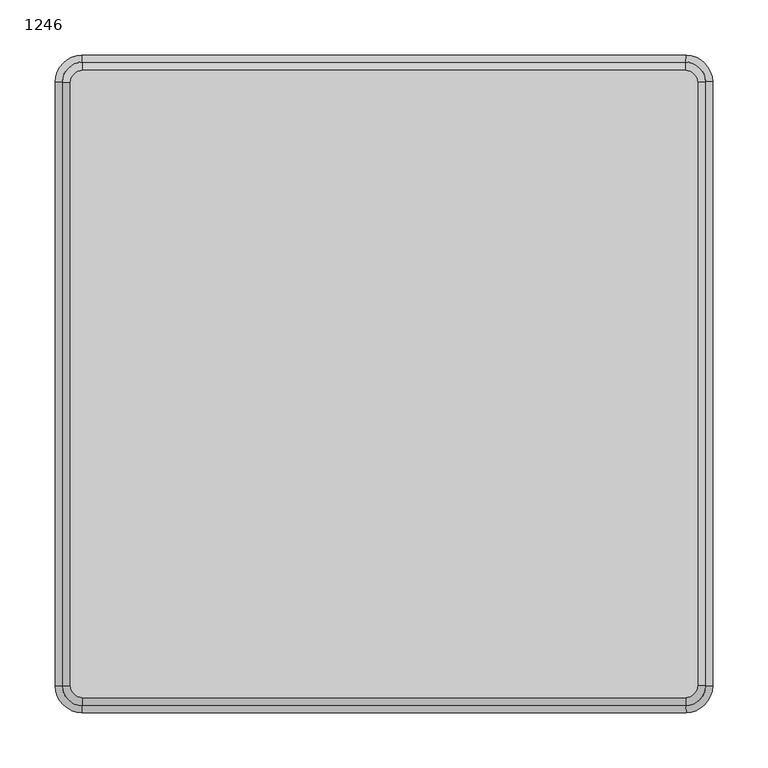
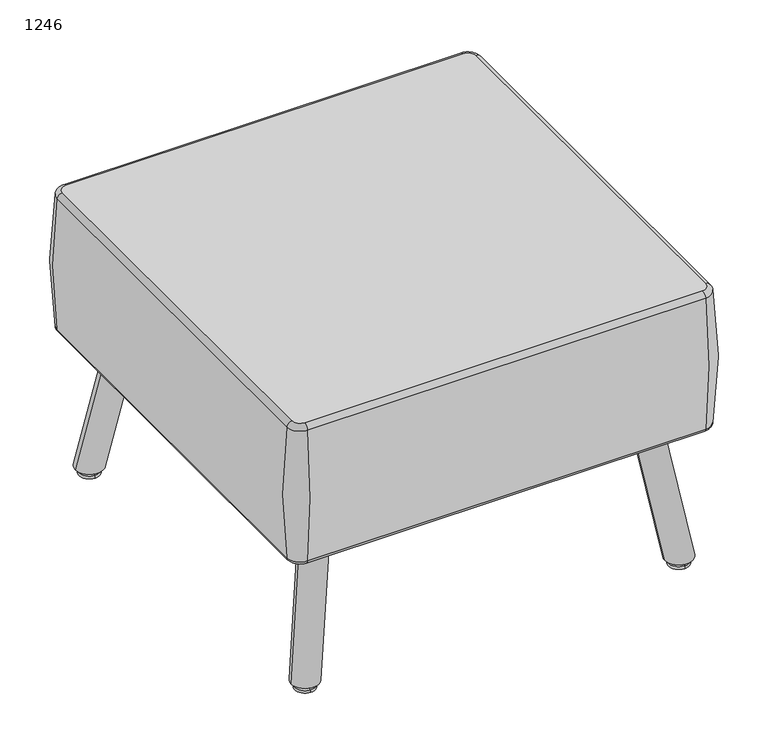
"""IFC4 building model written with IfcOpenShell, lengths in millimetres: furniture geometry, Laguna-Square_Ottomans-With_Legs-ERG : 1246."""

from ifc_helpers import new_model, si_unit, point, frame, frame_2d, origin, place, context, project, spatial, polyline, circle_curve, ellipse_curve, trimmed, segment, composite_curve, outline, extrude, source, transform, mapped, element, save
from ifc_brep_helpers import plane_surface, cylinder_surface, revolved_surface, spline_surface, advanced_brep


def furniture_1246_e8551991(model_context):
    return source(origin(), model_context, "Body", "SolidModel", [
        advanced_brep(
        [(-4631.6596005, 1213.9607848, 406.4), (-4642.547111, 1203.0732744, 406.4), (-4642.547111, 655.638426, 406.4), (-4631.6596005, 644.7509155, 406.4), (-4084.2247521, 644.7509155, 406.4), (-4073.3372416, 655.638426, 406.4), (-4073.3372416, 1203.0732744, 406.4), (-4084.2247521, 1213.9607848, 406.4), (-4642.547111, 1203.0732744, 203.2), (-4631.6596005, 1213.9607848, 203.2), (-4084.2247521, 1213.9607848, 203.2), (-4073.3372416, 1203.0732744, 203.2), (-4073.3372416, 655.638426, 203.2), (-4084.2247521, 644.7509155, 203.2), (-4631.6596005, 644.7509155, 203.2), (-4642.547111, 655.638426, 203.2), (-4650.0919814, 1203.4222653, 399.7887299), (-4632.0085914, 1221.5056552, 399.7887299), (-4632.0085914, 1221.5056552, 209.8112701), (-4650.0919814, 1203.4222653, 209.8112701), (-4650.0919814, 655.2894351, 209.8112701), (-4650.0919814, 655.2894351, 399.7887299), (-4632.0085914, 637.2060451, 209.8112701), (-4632.0085914, 637.2060451, 399.7887299), (-4083.8757612, 637.2060451, 209.8112701), (-4083.8757612, 637.2060451, 399.7887299), (-4065.7923712, 655.2894351, 209.8112701), (-4065.7923712, 655.2894351, 399.7887299), (-4065.7923712, 1203.4222653, 209.8112701), (-4065.7923712, 1203.4222653, 399.7887299), (-4083.8757612, 1221.5056552, 209.8112701), (-4083.8757612, 1221.5056552, 399.7887299)],
        [
            (0, 1, circle_curve(frame((-4631.1315702, 1202.5452441, 406.4), z_axis=(0.0, 0.0, 1.0), x_axis=(-0.04620598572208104, 0.9989319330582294, 0.0)), 11.4277464)),
            (1, 2, circle_curve(frame((1274.977889, 929.3558502, 406.4), z_axis=(0.0, 0.0, 1.0), x_axis=(-0.9989319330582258, 0.04620598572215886, 0.0)), 5923.8520706)),
            (2, 3, circle_curve(frame((-4631.1315702, 656.1664563, 406.4), z_axis=(0.0, 0.0, 1.0), x_axis=(-0.9989319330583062, -0.04620598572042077, 0.0)), 11.4277464)),
            (3, 4, circle_curve(frame((-4357.9421763, 6562.2759155, 406.4), z_axis=(0.0, 0.0, 1.0), x_axis=(-0.0462059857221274, -0.9989319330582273, 0.0)), 5923.8520706)),
            (4, 5, circle_curve(frame((-4084.7527824, 656.1664563, 406.4), z_axis=(0.0, 0.0, 1.0), x_axis=(0.04620598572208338, -0.9989319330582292, 0.0)), 11.4277464)),
            (5, 6, circle_curve(frame((-9990.8622416, 929.3558502, 406.4), z_axis=(0.0, 0.0, 1.0), x_axis=(0.9989319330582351, -0.04620598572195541, 0.0)), 5923.8520706)),
            (6, 7, circle_curve(frame((-4084.7527824, 1202.5452441, 406.4), z_axis=(0.0, 0.0, 1.0), x_axis=(0.9989319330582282, 0.046205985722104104, 0.0)), 11.4277464)),
            (7, 0, circle_curve(frame((-4357.9421763, -4703.5642152, 406.4), z_axis=(0.0, 0.0, 1.0), x_axis=(0.046205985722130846, 0.998931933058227, 0.0)), 5923.8520706)),
            (8, 9, circle_curve(frame((-4631.1315702, 1202.5452441, 203.2), z_axis=(0.0, 0.0, -1.0), x_axis=(-0.04620598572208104, 0.9989319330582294, 0.0)), 11.4277464)),
            (9, 10, circle_curve(frame((-4357.9421763, -4703.5642152, 203.2), z_axis=(0.0, 0.0, -1.0), x_axis=(0.046205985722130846, 0.998931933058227, 0.0)), 5923.8520706)),
            (10, 11, circle_curve(frame((-4084.7527824, 1202.5452441, 203.2), z_axis=(0.0, 0.0, -1.0), x_axis=(0.9989319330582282, 0.046205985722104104, 0.0)), 11.4277464)),
            (11, 12, circle_curve(frame((-9990.8622416, 929.3558502, 203.2), z_axis=(0.0, 0.0, -1.0), x_axis=(0.9989319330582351, -0.04620598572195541, 0.0)), 5923.8520706)),
            (12, 13, circle_curve(frame((-4084.7527824, 656.1664563, 203.2), z_axis=(0.0, 0.0, -1.0), x_axis=(0.04620598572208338, -0.9989319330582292, 0.0)), 11.4277464)),
            (13, 14, circle_curve(frame((-4357.9421763, 6562.2759155, 203.2), z_axis=(0.0, 0.0, -1.0), x_axis=(-0.0462059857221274, -0.9989319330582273, 0.0)), 5923.8520706)),
            (14, 15, circle_curve(frame((-4631.1315702, 656.1664563, 203.2), z_axis=(0.0, 0.0, -1.0), x_axis=(-0.9989319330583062, -0.04620598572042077, 0.0)), 11.4277464)),
            (15, 8, circle_curve(frame((1274.977889, 929.3558502, 203.2), z_axis=(0.0, 0.0, -1.0), x_axis=(-0.9989319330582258, 0.04620598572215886, 0.0)), 5923.8520706)),
            (16, 17, circle_curve(frame((-4631.1315702, 1202.5452441, 399.7887299), z_axis=(0.0, 0.0, -1.0), x_axis=(-0.04620598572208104, 0.9989319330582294, 0.0)), 18.9806838)),
            (17, 18, circle_curve(frame((-4599.1452798, 511.0303591, 304.8), z_axis=(-0.9989319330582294, -0.04620598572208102, 0.0), x_axis=(0.04620598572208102, -0.9989319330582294, 0.0)), 717.55)),
            (18, 19, circle_curve(frame((-4631.1315702, 1202.5452441, 209.8112701), z_axis=(0.0, 0.0, 1.0), x_axis=(-0.04620598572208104, 0.9989319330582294, 0.0)), 18.9806838)),
            (19, 16, circle_curve(frame((-3939.6166852, 1170.5589537, 304.8), z_axis=(0.04620598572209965, 0.9989319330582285, 0.0), x_axis=(0.9989319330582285, -0.04620598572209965, 0.0)), 717.55)),
            (16, 1, circle_curve(frame((-4642.547111, 1203.0732744, 398.78), z_axis=(0.04620598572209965, 0.9989319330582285, 0.0), x_axis=(0.9989319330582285, -0.04620598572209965, 0.0)), 7.62)),
            (0, 17, circle_curve(frame((-4631.6596005, 1213.9607848, 398.78), z_axis=(-0.9989319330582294, -0.04620598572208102, 0.0), x_axis=(0.04620598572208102, -0.9989319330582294, 0.0)), 7.62)),
            (18, 9, circle_curve(frame((-4631.6596005, 1213.9607848, 210.82), z_axis=(-0.9989319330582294, -0.04620598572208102, 0.0), x_axis=(0.04620598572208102, -0.9989319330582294, 0.0)), 7.62)),
            (8, 19, circle_curve(frame((-4642.547111, 1203.0732744, 210.82), z_axis=(0.046205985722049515, 0.9989319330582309, 0.0), x_axis=(0.9989319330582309, -0.046205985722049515, 0.0)), 7.62)),
            (19, 20, circle_curve(frame((1274.977889, 929.3558502, 209.8112701), z_axis=(0.0, 0.0, 1.0), x_axis=(-0.9989319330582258, 0.04620598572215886, 0.0)), 5931.405008)),
            (20, 21, circle_curve(frame((-3939.6166852, 688.1527467, 304.8), z_axis=(-0.04620598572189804, 0.9989319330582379, 0.0), x_axis=(0.9989319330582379, 0.04620598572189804, 0.0)), 717.55)),
            (21, 16, circle_curve(frame((1274.977889, 929.3558502, 399.7887299), z_axis=(0.0, 0.0, -1.0), x_axis=(-0.9989319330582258, 0.04620598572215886, 0.0)), 5931.405008)),
            (21, 2, circle_curve(frame((-4642.547111, 655.638426, 398.78), z_axis=(-0.04620598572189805, 0.9989319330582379, 0.0), x_axis=(0.9989319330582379, 0.04620598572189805, 0.0)), 7.62)),
            (15, 20, circle_curve(frame((-4642.547111, 655.638426, 210.82), z_axis=(-0.046205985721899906, 0.9989319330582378, 0.0), x_axis=(0.9989319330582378, 0.046205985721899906, 0.0)), 7.62)),
            (20, 22, circle_curve(frame((-4631.1315702, 656.1664563, 209.8112701), z_axis=(0.0, 0.0, 1.0), x_axis=(-0.9989319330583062, -0.04620598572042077, 0.0)), 18.9806838)),
            (22, 23, circle_curve(frame((-4599.1452798, 1347.6813412, 304.8), z_axis=(-0.9989319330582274, 0.0462059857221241, 0.0), x_axis=(0.0462059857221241, 0.9989319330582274, 0.0)), 717.55)),
            (23, 21, circle_curve(frame((-4631.1315702, 656.1664563, 399.7887299), z_axis=(0.0, 0.0, -1.0), x_axis=(-0.9989319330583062, -0.04620598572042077, 0.0)), 18.9806838)),
            (23, 3, circle_curve(frame((-4631.6596005, 644.7509155, 398.78), z_axis=(-0.9989319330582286, 0.04620598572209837, 0.0), x_axis=(0.04620598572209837, 0.9989319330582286, 0.0)), 7.62)),
            (14, 22, circle_curve(frame((-4631.6596005, 644.7509155, 210.82), z_axis=(-0.998931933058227, 0.04620598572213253, 0.0), x_axis=(0.04620598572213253, 0.998931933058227, 0.0)), 7.62)),
            (22, 24, circle_curve(frame((-4357.9421763, 6562.2759155, 209.8112701), z_axis=(0.0, 0.0, 1.0), x_axis=(-0.0462059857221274, -0.9989319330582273, 0.0)), 5931.405008)),
            (24, 25, circle_curve(frame((-4116.7390728, 1347.6813412, 304.8), z_axis=(-0.998931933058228, -0.04620598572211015, 0.0), x_axis=(-0.04620598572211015, 0.998931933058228, 0.0)), 717.55)),
            (25, 23, circle_curve(frame((-4357.9421763, 6562.2759155, 399.7887299), z_axis=(0.0, 0.0, -1.0), x_axis=(-0.0462059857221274, -0.9989319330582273, 0.0)), 5931.405008)),
            (25, 4, circle_curve(frame((-4084.2247521, 644.7509155, 398.78), z_axis=(-0.998931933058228, -0.04620598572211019, 0.0), x_axis=(-0.04620598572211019, 0.998931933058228, 0.0)), 7.62)),
            (13, 24, circle_curve(frame((-4084.2247521, 644.7509155, 210.82), z_axis=(-0.998931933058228, -0.046205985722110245, 0.0), x_axis=(-0.046205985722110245, 0.998931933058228, 0.0)), 7.62)),
            (24, 26, circle_curve(frame((-4084.7527824, 656.1664563, 209.8112701), z_axis=(0.0, 0.0, 1.0), x_axis=(0.04620598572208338, -0.9989319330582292, 0.0)), 18.9806838)),
            (26, 27, circle_curve(frame((-4776.2676674, 688.1527467, 304.8), z_axis=(-0.046205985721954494, -0.9989319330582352, 0.0), x_axis=(-0.9989319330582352, 0.046205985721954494, 0.0)), 717.55)),
            (27, 25, circle_curve(frame((-4084.7527824, 656.1664563, 399.7887299), z_axis=(0.0, 0.0, -1.0), x_axis=(0.04620598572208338, -0.9989319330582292, 0.0)), 18.9806838)),
            (27, 5, circle_curve(frame((-4073.3372416, 655.638426, 398.78), z_axis=(-0.046205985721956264, -0.9989319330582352, 0.0), x_axis=(-0.9989319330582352, 0.046205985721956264, 0.0)), 7.62)),
            (12, 26, circle_curve(frame((-4073.3372416, 655.638426, 210.82), z_axis=(-0.04620598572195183, -0.9989319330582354, 0.0), x_axis=(-0.9989319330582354, 0.04620598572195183, 0.0)), 7.62)),
            (26, 28, circle_curve(frame((-9990.8622416, 929.3558502, 209.8112701), z_axis=(0.0, 0.0, 1.0), x_axis=(0.9989319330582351, -0.04620598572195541, 0.0)), 5931.405008)),
            (28, 29, circle_curve(frame((-4776.2676674, 1170.5589537, 304.8), z_axis=(0.04620598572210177, -0.9989319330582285, 0.0), x_axis=(-0.9989319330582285, -0.04620598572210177, 0.0)), 717.55)),
            (29, 27, circle_curve(frame((-9990.8622416, 929.3558502, 399.7887299), z_axis=(0.0, 0.0, -1.0), x_axis=(0.9989319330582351, -0.04620598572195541, 0.0)), 5931.405008)),
            (29, 6, circle_curve(frame((-4073.3372416, 1203.0732744, 398.78), z_axis=(0.04620598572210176, -0.9989319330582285, 0.0), x_axis=(-0.9989319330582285, -0.04620598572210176, 0.0)), 7.62)),
            (11, 28, circle_curve(frame((-4073.3372416, 1203.0732744, 210.82), z_axis=(0.04620598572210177, -0.9989319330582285, 0.0), x_axis=(-0.9989319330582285, -0.04620598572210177, 0.0)), 7.62)),
            (28, 30, circle_curve(frame((-4084.7527824, 1202.5452441, 209.8112701), z_axis=(0.0, 0.0, 1.0), x_axis=(0.9989319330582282, 0.046205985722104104, 0.0)), 18.9806838)),
            (30, 31, circle_curve(frame((-4116.7390728, 511.0303591, 304.8), z_axis=(0.9989319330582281, -0.04620598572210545, 0.0), x_axis=(-0.04620598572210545, -0.9989319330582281, 0.0)), 717.55)),
            (31, 29, circle_curve(frame((-4084.7527824, 1202.5452441, 399.7887299), z_axis=(0.0, 0.0, -1.0), x_axis=(0.9989319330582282, 0.046205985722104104, 0.0)), 18.9806838)),
            (31, 7, circle_curve(frame((-4084.2247521, 1213.9607848, 398.78), z_axis=(0.998931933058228, -0.04620598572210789, 0.0), x_axis=(-0.04620598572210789, -0.998931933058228, 0.0)), 7.62)),
            (10, 30, circle_curve(frame((-4084.2247521, 1213.9607848, 210.82), z_axis=(0.9989319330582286, -0.04620598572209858, 0.0), x_axis=(-0.04620598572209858, -0.9989319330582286, 0.0)), 7.62)),
            (17, 31, circle_curve(frame((-4357.9421763, -4703.5642152, 399.7887299), z_axis=(0.0, 0.0, -1.0), x_axis=(0.046205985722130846, 0.998931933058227, 0.0)), 5931.405008)),
            (30, 18, circle_curve(frame((-4357.9421763, -4703.5642152, 209.8112701), z_axis=(0.0, 0.0, 1.0), x_axis=(0.046205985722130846, 0.998931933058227, 0.0)), 5931.405008)),
        ],
        [
            plane_surface(frame((-4619.7038238, 1202.5452441, 406.4), z_axis=(0.0, 0.0, 1.0), x_axis=(0.0, 1.0, 0.0))),
            plane_surface(frame((-4619.7038238, 1202.5452441, 203.2), z_axis=(0.0, 0.0, -1.0), x_axis=(0.0, -1.0, 0.0))),
            revolved_surface(trimmed(ellipse_curve(frame((-4599.1452798, 511.0303591, 304.8), z_axis=(0.9989319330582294, 0.04620598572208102, 0.0), x_axis=(0.04620598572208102, -0.9989319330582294, 0.0)), 717.55, 717.55), [point((-4632.0085914, 1221.5056552, 209.8112701))], [point((-4632.0085914, 1221.5056552, 399.7887299))], True, "CARTESIAN"), (-4631.1315702, 1202.5452441, 0.0), (0.0, 0.0, 1.0)),
            revolved_surface(trimmed(ellipse_curve(frame((-4631.6596005, 1213.9607848, 398.78), z_axis=(0.9989319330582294, 0.04620598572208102, 0.0), x_axis=(0.04620598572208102, -0.9989319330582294, 0.0)), 7.62, 7.62), [point((-4632.0085914, 1221.5056552, 399.7887299))], [point((-4631.6596005, 1213.9607848, 406.4))], True, "CARTESIAN"), (-4631.1315702, 1202.5452441, 0.0), (0.0, 0.0, 1.0)),
            revolved_surface(trimmed(ellipse_curve(frame((-4631.6596005, 1213.9607848, 210.82), z_axis=(0.9989319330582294, 0.04620598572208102, 0.0), x_axis=(0.04620598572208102, -0.9989319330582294, 0.0)), 7.62, 7.62), [point((-4631.6596005, 1213.9607848, 203.2))], [point((-4632.0085914, 1221.5056552, 209.8112701))], True, "CARTESIAN"), (-4631.1315702, 1202.5452441, 0.0), (0.0, 0.0, 1.0)),
            revolved_surface(trimmed(ellipse_curve(frame((-3939.6166852, 1170.5589537, 304.8), z_axis=(0.046205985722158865, 0.9989319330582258, 0.0), x_axis=(0.9989319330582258, -0.046205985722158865, 0.0)), 717.55, 717.55), [point((-4650.0919814, 1203.4222653, 209.8112701))], [point((-4650.0919814, 1203.4222653, 399.7887299))], True, "CARTESIAN"), (1274.977889, 929.3558502, 0.0), (0.0, 0.0, 1.0)),
            revolved_surface(trimmed(ellipse_curve(frame((-4642.547111, 1203.0732744, 398.78), z_axis=(0.046205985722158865, 0.9989319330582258, 0.0), x_axis=(0.9989319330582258, -0.046205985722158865, 0.0)), 7.62, 7.62), [point((-4650.0919814, 1203.4222653, 399.7887299))], [point((-4642.547111, 1203.0732744, 406.4))], True, "CARTESIAN"), (1274.977889, 929.3558502, 0.0), (0.0, 0.0, 1.0)),
            revolved_surface(trimmed(ellipse_curve(frame((-4642.547111, 1203.0732744, 210.82), z_axis=(0.046205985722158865, 0.9989319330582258, 0.0), x_axis=(0.9989319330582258, -0.046205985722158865, 0.0)), 7.62, 7.62), [point((-4642.547111, 1203.0732744, 203.2))], [point((-4650.0919814, 1203.4222653, 209.8112701))], True, "CARTESIAN"), (1274.977889, 929.3558502, 0.0), (0.0, 0.0, 1.0)),
            revolved_surface(trimmed(ellipse_curve(frame((-3939.6166852, 688.1527467, 304.8), z_axis=(-0.046205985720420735, 0.9989319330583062, 0.0), x_axis=(0.9989319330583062, 0.046205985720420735, 0.0)), 717.55, 717.55), [point((-4650.0919814, 655.2894351, 209.8112701))], [point((-4650.0919814, 655.2894351, 399.7887299))], True, "CARTESIAN"), (-4631.1315702, 656.1664563, 0.0), (0.0, 0.0, 1.0)),
            revolved_surface(trimmed(ellipse_curve(frame((-4642.547111, 655.638426, 398.78), z_axis=(-0.046205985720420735, 0.9989319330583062, 0.0), x_axis=(0.9989319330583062, 0.046205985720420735, 0.0)), 7.62, 7.62), [point((-4650.0919814, 655.2894351, 399.7887299))], [point((-4642.547111, 655.638426, 406.4))], True, "CARTESIAN"), (-4631.1315702, 656.1664563, 0.0), (0.0, 0.0, 1.0)),
            revolved_surface(trimmed(ellipse_curve(frame((-4642.547111, 655.638426, 210.82), z_axis=(-0.046205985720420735, 0.9989319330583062, 0.0), x_axis=(0.9989319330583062, 0.046205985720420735, 0.0)), 7.62, 7.62), [point((-4642.547111, 655.638426, 203.2))], [point((-4650.0919814, 655.2894351, 209.8112701))], True, "CARTESIAN"), (-4631.1315702, 656.1664563, 0.0), (0.0, 0.0, 1.0)),
            revolved_surface(trimmed(ellipse_curve(frame((-4599.1452798, 1347.6813412, 304.8), z_axis=(-0.9989319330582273, 0.04620598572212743, 0.0), x_axis=(0.04620598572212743, 0.9989319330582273, 0.0)), 717.55, 717.55), [point((-4632.0085914, 637.2060451, 209.8112701))], [point((-4632.0085914, 637.2060451, 399.7887299))], True, "CARTESIAN"), (-4357.9421763, 6562.2759155, 0.0), (0.0, 0.0, 1.0)),
            revolved_surface(trimmed(ellipse_curve(frame((-4631.6596005, 644.7509155, 398.78), z_axis=(-0.9989319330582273, 0.04620598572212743, 0.0), x_axis=(0.04620598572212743, 0.9989319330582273, 0.0)), 7.62, 7.62), [point((-4632.0085914, 637.2060451, 399.7887299))], [point((-4631.6596005, 644.7509155, 406.4))], True, "CARTESIAN"), (-4357.9421763, 6562.2759155, 0.0), (0.0, 0.0, 1.0)),
            revolved_surface(trimmed(ellipse_curve(frame((-4631.6596005, 644.7509155, 210.82), z_axis=(-0.9989319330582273, 0.04620598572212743, 0.0), x_axis=(0.04620598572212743, 0.9989319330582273, 0.0)), 7.62, 7.62), [point((-4631.6596005, 644.7509155, 203.2))], [point((-4632.0085914, 637.2060451, 209.8112701))], True, "CARTESIAN"), (-4357.9421763, 6562.2759155, 0.0), (0.0, 0.0, 1.0)),
            revolved_surface(trimmed(ellipse_curve(frame((-4116.7390728, 1347.6813412, 304.8), z_axis=(-0.9989319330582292, -0.046205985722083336, 0.0), x_axis=(-0.046205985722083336, 0.9989319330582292, 0.0)), 717.55, 717.55), [point((-4083.8757612, 637.2060451, 209.8112701))], [point((-4083.8757612, 637.2060451, 399.7887299))], True, "CARTESIAN"), (-4084.7527824, 656.1664563, 0.0), (0.0, 0.0, 1.0)),
            revolved_surface(trimmed(ellipse_curve(frame((-4084.2247521, 644.7509155, 398.78), z_axis=(-0.9989319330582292, -0.046205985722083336, 0.0), x_axis=(-0.046205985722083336, 0.9989319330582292, 0.0)), 7.62, 7.62), [point((-4083.8757612, 637.2060451, 399.7887299))], [point((-4084.2247521, 644.7509155, 406.4))], True, "CARTESIAN"), (-4084.7527824, 656.1664563, 0.0), (0.0, 0.0, 1.0)),
            revolved_surface(trimmed(ellipse_curve(frame((-4084.2247521, 644.7509155, 210.82), z_axis=(-0.9989319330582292, -0.046205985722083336, 0.0), x_axis=(-0.046205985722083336, 0.9989319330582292, 0.0)), 7.62, 7.62), [point((-4084.2247521, 644.7509155, 203.2))], [point((-4083.8757612, 637.2060451, 209.8112701))], True, "CARTESIAN"), (-4084.7527824, 656.1664563, 0.0), (0.0, 0.0, 1.0)),
            revolved_surface(trimmed(ellipse_curve(frame((-4776.2676674, 688.1527467, 304.8), z_axis=(-0.04620598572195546, -0.9989319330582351, 0.0), x_axis=(-0.9989319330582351, 0.04620598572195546, 0.0)), 717.55, 717.55), [point((-4065.7923712, 655.2894351, 209.8112701))], [point((-4065.7923712, 655.2894351, 399.7887299))], True, "CARTESIAN"), (-9990.8622416, 929.3558502, 0.0), (0.0, 0.0, 1.0)),
            revolved_surface(trimmed(ellipse_curve(frame((-4073.3372416, 655.638426, 398.78), z_axis=(-0.04620598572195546, -0.9989319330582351, 0.0), x_axis=(-0.9989319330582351, 0.04620598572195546, 0.0)), 7.62, 7.62), [point((-4065.7923712, 655.2894351, 399.7887299))], [point((-4073.3372416, 655.638426, 406.4))], True, "CARTESIAN"), (-9990.8622416, 929.3558502, 0.0), (0.0, 0.0, 1.0)),
            revolved_surface(trimmed(ellipse_curve(frame((-4073.3372416, 655.638426, 210.82), z_axis=(-0.04620598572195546, -0.9989319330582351, 0.0), x_axis=(-0.9989319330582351, 0.04620598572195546, 0.0)), 7.62, 7.62), [point((-4073.3372416, 655.638426, 203.2))], [point((-4065.7923712, 655.2894351, 209.8112701))], True, "CARTESIAN"), (-9990.8622416, 929.3558502, 0.0), (0.0, 0.0, 1.0)),
            revolved_surface(trimmed(ellipse_curve(frame((-4776.2676674, 1170.5589537, 304.8), z_axis=(0.04620598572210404, -0.9989319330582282, 0.0), x_axis=(-0.9989319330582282, -0.04620598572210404, 0.0)), 717.55, 717.55), [point((-4065.7923712, 1203.4222653, 209.8112701))], [point((-4065.7923712, 1203.4222653, 399.7887299))], True, "CARTESIAN"), (-4084.7527824, 1202.5452441, 0.0), (0.0, 0.0, 1.0)),
            revolved_surface(trimmed(ellipse_curve(frame((-4073.3372416, 1203.0732744, 398.78), z_axis=(0.04620598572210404, -0.9989319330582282, 0.0), x_axis=(-0.9989319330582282, -0.04620598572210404, 0.0)), 7.62, 7.62), [point((-4065.7923712, 1203.4222653, 399.7887299))], [point((-4073.3372416, 1203.0732744, 406.4))], True, "CARTESIAN"), (-4084.7527824, 1202.5452441, 0.0), (0.0, 0.0, 1.0)),
            revolved_surface(trimmed(ellipse_curve(frame((-4073.3372416, 1203.0732744, 210.82), z_axis=(0.04620598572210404, -0.9989319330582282, 0.0), x_axis=(-0.9989319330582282, -0.04620598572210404, 0.0)), 7.62, 7.62), [point((-4073.3372416, 1203.0732744, 203.2))], [point((-4065.7923712, 1203.4222653, 209.8112701))], True, "CARTESIAN"), (-4084.7527824, 1202.5452441, 0.0), (0.0, 0.0, 1.0)),
            revolved_surface(trimmed(ellipse_curve(frame((-4116.7390728, 511.0303591, 304.8), z_axis=(0.998931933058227, -0.04620598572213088, 0.0), x_axis=(-0.04620598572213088, -0.998931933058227, 0.0)), 717.55, 717.55), [point((-4083.8757612, 1221.5056552, 209.8112701))], [point((-4083.8757612, 1221.5056552, 399.7887299))], True, "CARTESIAN"), (-4357.9421763, -4703.5642152, 0.0), (0.0, 0.0, 1.0)),
            revolved_surface(trimmed(ellipse_curve(frame((-4084.2247521, 1213.9607848, 398.78), z_axis=(0.998931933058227, -0.04620598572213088, 0.0), x_axis=(-0.04620598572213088, -0.998931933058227, 0.0)), 7.62, 7.62), [point((-4083.8757612, 1221.5056552, 399.7887299))], [point((-4084.2247521, 1213.9607848, 406.4))], True, "CARTESIAN"), (-4357.9421763, -4703.5642152, 0.0), (0.0, 0.0, 1.0)),
            revolved_surface(trimmed(ellipse_curve(frame((-4084.2247521, 1213.9607848, 210.82), z_axis=(0.998931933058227, -0.04620598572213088, 0.0), x_axis=(-0.04620598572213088, -0.998931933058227, 0.0)), 7.62, 7.62), [point((-4084.2247521, 1213.9607848, 203.2))], [point((-4083.8757612, 1221.5056552, 209.8112701))], True, "CARTESIAN"), (-4357.9421763, -4703.5642152, 0.0), (0.0, 0.0, 1.0)),
        ],
        [
            (0, [[1, 2, 3, 4, 5, 6, 7, 8]]),
            (1, [[9, 10, 11, 12, 13, 14, 15, 16]]),
            (2, [[17, 18, 19, 20]]),
            (3, [[-17, 21, -1, 22]]),
            (4, [[-19, 23, -9, 24]]),
            (5, [[-20, 25, 26, 27]]),
            (6, [[-21, -27, 28, -2]]),
            (7, [[-24, -16, 29, -25]]),
            (8, [[-26, 30, 31, 32]]),
            (9, [[-28, -32, 33, -3]]),
            (10, [[-29, -15, 34, -30]]),
            (11, [[-31, 35, 36, 37]]),
            (12, [[-33, -37, 38, -4]]),
            (13, [[-34, -14, 39, -35]]),
            (14, [[-36, 40, 41, 42]]),
            (15, [[-38, -42, 43, -5]]),
            (16, [[-39, -13, 44, -40]]),
            (17, [[-41, 45, 46, 47]]),
            (18, [[-43, -47, 48, -6]]),
            (19, [[-44, -12, 49, -45]]),
            (20, [[-46, 50, 51, 52]]),
            (21, [[-48, -52, 53, -7]]),
            (22, [[-49, -11, 54, -50]]),
            (23, [[-18, 55, -51, 56]]),
            (24, [[-22, -8, -53, -55]]),
            (25, [[-23, -56, -54, -10]]),
        ],
    ),
        extrude(outline(composite_curve([segment(trimmed(circle_curve(frame_2d((-4578.2187381, 1192.7376413)), 5.08), [point((-4581.8108405, 1196.3297438))], [point((-4574.6266356, 1196.3297438))], False, "CARTESIAN"), True, "CONTINUOUS"), segment(polyline([(-4574.6266356, 1196.3297438), (-4545.889816, 1167.5929242)]), True, "CONTINUOUS"), segment(trimmed(circle_curve(frame_2d((-4549.4819185, 1164.0008217)), 5.08), [point((-4545.889816, 1167.5929242))], [point((-4545.889816, 1160.4087193))], False, "CARTESIAN"), True, "CONTINUOUS"), segment(polyline([(-4545.889816, 1160.4087193), (-4588.9950454, 1117.3034899)]), True, "CONTINUOUS"), segment(trimmed(circle_curve(frame_2d((-4592.5871479, 1120.8955923)), 5.08), [point((-4588.9950454, 1117.3034899))], [point((-4596.1792503, 1117.3034899))], False, "CARTESIAN"), True, "CONTINUOUS"), segment(polyline([(-4596.1792503, 1117.3034899), (-4624.9160699, 1146.0403095)]), True, "CONTINUOUS"), segment(trimmed(circle_curve(frame_2d((-4621.3239674, 1149.6324119)), 5.08), [point((-4624.9160699, 1146.0403095))], [point((-4624.9160699, 1153.2245144))], False, "CARTESIAN"), True, "CONTINUOUS"), segment(polyline([(-4624.9160699, 1153.2245144), (-4581.8108405, 1196.3297438)]), True, "CONTINUOUS")], self_intersect=False)), frame((0.0, 0.0, 200.66), z_axis=(0.0, 0.0, 1.0), x_axis=(1.0, 0.0, 0.0)), (0.0, 0.0, 1.0), 2.54),
        extrude(outline(composite_curve([segment(polyline([(-4134.0735121, 1196.3297438), (-4090.9682827, 1153.2245144)]), True, "CONTINUOUS"), segment(trimmed(circle_curve(frame_2d((-4094.5603852, 1149.6324119)), 5.08), [point((-4090.9682827, 1153.2245144))], [point((-4090.9682827, 1146.0403095))], False, "CARTESIAN"), True, "CONTINUOUS"), segment(polyline([(-4090.9682827, 1146.0403095), (-4119.7051023, 1117.3034899)]), True, "CONTINUOUS"), segment(trimmed(circle_curve(frame_2d((-4123.2972048, 1120.8955923)), 5.08), [point((-4119.7051023, 1117.3034899))], [point((-4126.8893072, 1117.3034899))], False, "CARTESIAN"), True, "CONTINUOUS"), segment(polyline([(-4126.8893072, 1117.3034899), (-4169.9945366, 1160.4087193)]), True, "CONTINUOUS"), segment(trimmed(circle_curve(frame_2d((-4166.4024341, 1164.0008217)), 5.08), [point((-4169.9945366, 1160.4087193))], [point((-4169.9945366, 1167.5929242))], False, "CARTESIAN"), True, "CONTINUOUS"), segment(polyline([(-4169.9945366, 1167.5929242), (-4141.257717, 1196.3297438)]), True, "CONTINUOUS"), segment(trimmed(circle_curve(frame_2d((-4137.6656145, 1192.7376413)), 5.08), [point((-4141.257717, 1196.3297438))], [point((-4134.0735121, 1196.3297438))], False, "CARTESIAN"), True, "CONTINUOUS")], self_intersect=False)), frame((0.0, 0.0, 200.66), z_axis=(0.0, 0.0, 1.0), x_axis=(1.0, 0.0, 0.0)), (0.0, 0.0, 1.0), 2.54),
        extrude(outline(composite_curve([segment(trimmed(circle_curve(frame_2d((-4094.5603852, 709.0792884)), 5.08), [point((-4090.9682827, 712.6713909))], [point((-4090.9682827, 705.487186))], False, "CARTESIAN"), True, "CONTINUOUS"), segment(polyline([(-4090.9682827, 705.487186), (-4134.0735121, 662.3819566)]), True, "CONTINUOUS"), segment(trimmed(circle_curve(frame_2d((-4137.6656145, 665.974059)), 5.08), [point((-4134.0735121, 662.3819566))], [point((-4141.257717, 662.3819566))], False, "CARTESIAN"), True, "CONTINUOUS"), segment(polyline([(-4141.257717, 662.3819566), (-4169.9945366, 691.1187762)]), True, "CONTINUOUS"), segment(trimmed(circle_curve(frame_2d((-4166.4024341, 694.7108786)), 5.08), [point((-4169.9945366, 691.1187762))], [point((-4169.9945366, 698.3029811))], False, "CARTESIAN"), True, "CONTINUOUS"), segment(polyline([(-4169.9945366, 698.3029811), (-4126.8893072, 741.4082105)]), True, "CONTINUOUS"), segment(trimmed(circle_curve(frame_2d((-4123.2972048, 737.816108)), 5.08), [point((-4126.8893072, 741.4082105))], [point((-4119.7051023, 741.4082105))], False, "CARTESIAN"), True, "CONTINUOUS"), segment(polyline([(-4119.7051023, 741.4082105), (-4090.9682827, 712.6713909)]), True, "CONTINUOUS")], self_intersect=False)), frame((0.0, 0.0, 200.66), z_axis=(0.0, 0.0, 1.0), x_axis=(1.0, 0.0, 0.0)), (0.0, 0.0, 1.0), 2.54),
        extrude(outline(composite_curve([segment(polyline([(-4588.9950454, 741.4082105), (-4545.889816, 698.3029811)]), True, "CONTINUOUS"), segment(trimmed(circle_curve(frame_2d((-4549.4819185, 694.7108786)), 5.08), [point((-4545.889816, 698.3029811))], [point((-4545.889816, 691.1187762))], False, "CARTESIAN"), True, "CONTINUOUS"), segment(polyline([(-4545.889816, 691.1187762), (-4574.6266356, 662.3819566)]), True, "CONTINUOUS"), segment(trimmed(circle_curve(frame_2d((-4578.2187381, 665.974059)), 5.08), [point((-4574.6266356, 662.3819566))], [point((-4581.8108405, 662.3819566))], False, "CARTESIAN"), True, "CONTINUOUS"), segment(polyline([(-4581.8108405, 662.3819566), (-4624.9160699, 705.487186)]), True, "CONTINUOUS"), segment(trimmed(circle_curve(frame_2d((-4621.3239674, 709.0792884)), 5.08), [point((-4624.9160699, 705.487186))], [point((-4624.9160699, 712.6713909))], False, "CARTESIAN"), True, "CONTINUOUS"), segment(polyline([(-4624.9160699, 712.6713909), (-4596.1792503, 741.4082105)]), True, "CONTINUOUS"), segment(trimmed(circle_curve(frame_2d((-4592.5871479, 737.816108)), 5.08), [point((-4596.1792503, 741.4082105))], [point((-4588.9950454, 741.4082105))], False, "CARTESIAN"), True, "CONTINUOUS")], self_intersect=False)), frame((0.0, 0.0, 200.66), z_axis=(0.0, 0.0, 1.0), x_axis=(1.0, 0.0, 0.0)), (0.0, 0.0, 1.0), 2.54),
        advanced_brep(
        [(-4615.1048436, 676.436231, 10.16), (-4615.1048436, 667.9501347, 10.16), (-4615.1048436, 667.9501347, 3.9615026), (-4615.1048436, 676.436231, 3.9615026), (-4615.1048436, 658.1148294, 3.9615026), (-4615.1048436, 686.2715363, 3.9615026), (-4615.1048436, 658.1148294, 0.0), (-4615.1048436, 686.2715363, 0.0), (-4615.1048436, 672.1931828, 0.0), (-4615.1048436, 672.1931828, 10.16)],
        [
            (0, 1, circle_curve(frame((-4615.1048436, 672.1931828, 10.16), z_axis=(0.0, 0.0, -1.0), x_axis=(0.0, -1.0, 0.0)), 4.2430482)),
            (1, 2),
            (2, 3, circle_curve(frame((-4615.1048436, 672.1931828, 3.9615026), z_axis=(0.0, 0.0, 1.0), x_axis=(0.0, -1.0, 0.0)), 4.2430482)),
            (3, 0),
            (1, 0, circle_curve(frame((-4615.1048436, 672.1931828, 10.16), z_axis=(0.0, 0.0, -1.0), x_axis=(0.0, -1.0, 0.0)), 4.2430482)),
            (3, 2, circle_curve(frame((-4615.1048436, 672.1931828, 3.9615026), z_axis=(0.0, 0.0, 1.0), x_axis=(0.0, -1.0, 0.0)), 4.2430482)),
            (2, 4),
            (4, 5, circle_curve(frame((-4615.1048436, 672.1931828, 3.9615026), z_axis=(0.0, 0.0, 1.0), x_axis=(0.0, -1.0, 0.0)), 14.0783534)),
            (5, 3),
            (5, 4, circle_curve(frame((-4615.1048436, 672.1931828, 3.9615026), z_axis=(0.0, 0.0, 1.0), x_axis=(0.0, -1.0, 0.0)), 14.0783534)),
            (4, 6),
            (6, 7, circle_curve(frame((-4615.1048436, 672.1931828, 0.0), z_axis=(0.0, 0.0, 1.0), x_axis=(0.0, -1.0, 0.0)), 14.0783534)),
            (7, 5),
            (7, 6, circle_curve(frame((-4615.1048436, 672.1931828, 0.0), z_axis=(0.0, 0.0, 1.0), x_axis=(0.0, -1.0, 0.0)), 14.0783534)),
            (6, 8),
            (8, 7),
            (9, 1),
            (0, 9),
        ],
        [
            cylinder_surface(frame((-4615.1048436, 672.1931828, 20.9252452), z_axis=(0.0, 0.0, 1.0), x_axis=(0.0, -1.0, 0.0)), 4.2430482),
            plane_surface(frame((-4615.1048436, 672.1931828, 3.9615026), z_axis=(0.0, 0.0, 1.0), x_axis=(0.0, -1.0, 0.0))),
            cylinder_surface(frame((-4615.1048436, 672.1931828, 20.9252452), z_axis=(0.0, 0.0, 1.0), x_axis=(0.0, -1.0, 0.0)), 14.0783534),
            plane_surface(frame((-4615.1048436, 672.1931828, 0.0), z_axis=(0.0, 0.0, -1.0), x_axis=(0.0, -1.0, 0.0))),
            plane_surface(frame((-4615.1048436, 672.1931828, 10.16), z_axis=(0.0, 0.0, 1.0), x_axis=(0.0, -1.0, 0.0))),
        ],
        [
            (0, [[1, 2, 3, 4]]),
            (0, [[5, -4, 6, -2]]),
            (1, [[-3, 7, 8, 9]]),
            (1, [[-6, -9, 10, -7]]),
            (2, [[-8, 11, 12, 13]]),
            (2, [[-10, -13, 14, -11]]),
            (3, [[-12, 15, 16]]),
            (3, [[-14, -16, -15]]),
            (4, [[17, -1, 18]]),
            (4, [[-18, -5, -17]]),
        ],
    ),
        advanced_brep(
        [(-4615.1048436, 1190.7615656, 3.9615026), (-4615.1048436, 1182.2754693, 3.9615026), (-4615.1048436, 1172.4401641, 3.9615026), (-4615.1048436, 1200.5968709, 3.9615026), (-4615.1048436, 1172.4401641, 0.0), (-4615.1048436, 1200.5968709, 0.0), (-4615.1048436, 1186.5185175, 0.0), (-4615.1048436, 1186.5185175, 10.16), (-4615.1048436, 1182.2754693, 10.16), (-4615.1048436, 1190.7615656, 10.16)],
        [
            (0, 1, circle_curve(frame((-4615.1048436, 1186.5185175, 3.9615026), z_axis=(0.0, 0.0, -1.0), x_axis=(0.0, -1.0, 0.0)), 4.2430481)),
            (1, 2),
            (2, 3, circle_curve(frame((-4615.1048436, 1186.5185175, 3.9615026), z_axis=(0.0, 0.0, 1.0), x_axis=(0.0, -1.0, 0.0)), 14.0783534)),
            (3, 0),
            (1, 0, circle_curve(frame((-4615.1048436, 1186.5185175, 3.9615026), z_axis=(0.0, 0.0, -1.0), x_axis=(0.0, -1.0, 0.0)), 4.2430481)),
            (3, 2, circle_curve(frame((-4615.1048436, 1186.5185175, 3.9615026), z_axis=(0.0, 0.0, 1.0), x_axis=(0.0, -1.0, 0.0)), 14.0783534)),
            (2, 4),
            (4, 5, circle_curve(frame((-4615.1048436, 1186.5185175, 0.0), z_axis=(0.0, 0.0, 1.0), x_axis=(0.0, -1.0, 0.0)), 14.0783534)),
            (5, 3),
            (5, 4, circle_curve(frame((-4615.1048436, 1186.5185175, 0.0), z_axis=(0.0, 0.0, 1.0), x_axis=(0.0, -1.0, 0.0)), 14.0783534)),
            (4, 6),
            (6, 5),
            (7, 8),
            (8, 9, circle_curve(frame((-4615.1048436, 1186.5185175, 10.16), z_axis=(0.0, 0.0, 1.0), x_axis=(0.0, -1.0, 0.0)), 4.2430481)),
            (9, 7),
            (9, 8, circle_curve(frame((-4615.1048436, 1186.5185175, 10.16), z_axis=(0.0, 0.0, 1.0), x_axis=(0.0, -1.0, 0.0)), 4.2430481)),
            (8, 1),
            (0, 9),
        ],
        [
            plane_surface(frame((-4615.1048436, 1186.5185175, 3.9615026), z_axis=(0.0, 0.0, 1.0), x_axis=(0.0, -1.0, 0.0))),
            cylinder_surface(frame((-4615.1048436, 1186.5185175, 29.21), z_axis=(0.0, 0.0, 1.0), x_axis=(0.0, -1.0, 0.0)), 14.0783534),
            plane_surface(frame((-4615.1048436, 1186.5185175, 0.0), z_axis=(0.0, 0.0, -1.0), x_axis=(0.0, -1.0, 0.0))),
            plane_surface(frame((-4615.1048436, 1186.5185175, 10.16), z_axis=(0.0, 0.0, 1.0), x_axis=(0.0, -1.0, 0.0))),
            cylinder_surface(frame((-4615.1048436, 1186.5185175, 29.21), z_axis=(0.0, 0.0, 1.0), x_axis=(0.0, -1.0, 0.0)), 4.2430481),
        ],
        [
            (0, [[1, 2, 3, 4]]),
            (0, [[5, -4, 6, -2]]),
            (1, [[-3, 7, 8, 9]]),
            (1, [[-6, -9, 10, -7]]),
            (2, [[-8, 11, 12]]),
            (2, [[-10, -12, -11]]),
            (3, [[13, 14, 15]]),
            (3, [[-15, 16, -13]]),
            (4, [[-14, 17, -1, 18]]),
            (4, [[-16, -18, -5, -17]]),
        ],
    ),
        advanced_brep(
        [(-4100.779509, 676.436231, 3.9615026), (-4100.779509, 667.9501347, 3.9615026), (-4100.779509, 667.9501347, 10.16), (-4100.779509, 676.436231, 10.16), (-4100.779509, 686.2715363, 3.9615026), (-4100.779509, 658.1148294, 3.9615026), (-4100.779509, 686.2715363, 0.0), (-4100.779509, 658.1148294, 0.0), (-4100.779509, 672.1931828, 0.0), (-4100.779509, 672.1931828, 10.16)],
        [
            (0, 1, circle_curve(frame((-4100.779509, 672.1931828, 3.9615026), z_axis=(0.0, 0.0, 1.0), x_axis=(0.0, -1.0, 0.0)), 4.2430482)),
            (1, 2),
            (2, 3, circle_curve(frame((-4100.779509, 672.1931828, 10.16), z_axis=(0.0, 0.0, -1.0), x_axis=(0.0, -1.0, 0.0)), 4.2430482)),
            (3, 0),
            (1, 0, circle_curve(frame((-4100.779509, 672.1931828, 3.9615026), z_axis=(0.0, 0.0, 1.0), x_axis=(0.0, -1.0, 0.0)), 4.2430482)),
            (3, 2, circle_curve(frame((-4100.779509, 672.1931828, 10.16), z_axis=(0.0, 0.0, -1.0), x_axis=(0.0, -1.0, 0.0)), 4.2430482)),
            (4, 5, circle_curve(frame((-4100.779509, 672.1931828, 3.9615026), z_axis=(0.0, 0.0, 1.0), x_axis=(0.0, -1.0, 0.0)), 14.0783534)),
            (5, 1),
            (0, 4),
            (5, 4, circle_curve(frame((-4100.779509, 672.1931828, 3.9615026), z_axis=(0.0, 0.0, 1.0), x_axis=(0.0, -1.0, 0.0)), 14.0783534)),
            (6, 7, circle_curve(frame((-4100.779509, 672.1931828, 0.0), z_axis=(0.0, 0.0, 1.0), x_axis=(0.0, -1.0, 0.0)), 14.0783534)),
            (7, 5),
            (4, 6),
            (7, 6, circle_curve(frame((-4100.779509, 672.1931828, 0.0), z_axis=(0.0, 0.0, 1.0), x_axis=(0.0, -1.0, 0.0)), 14.0783534)),
            (8, 7),
            (6, 8),
            (2, 9),
            (9, 3),
        ],
        [
            cylinder_surface(frame((-4100.779509, 672.1931828, 20.9252452), z_axis=(0.0, 0.0, -1.0), x_axis=(0.0, -1.0, 0.0)), 4.2430482),
            plane_surface(frame((-4100.779509, 672.1931828, 3.9615026), z_axis=(0.0, 0.0, 1.0), x_axis=(0.0, -1.0, 0.0))),
            cylinder_surface(frame((-4100.779509, 672.1931828, 20.9252452), z_axis=(0.0, 0.0, -1.0), x_axis=(0.0, -1.0, 0.0)), 14.0783534),
            plane_surface(frame((-4100.779509, 672.1931828, 0.0), z_axis=(0.0, 0.0, -1.0), x_axis=(0.0, -1.0, 0.0))),
            plane_surface(frame((-4100.779509, 672.1931828, 10.16), z_axis=(0.0, 0.0, 1.0), x_axis=(0.0, -1.0, 0.0))),
        ],
        [
            (0, [[1, 2, 3, 4]]),
            (0, [[5, -4, 6, -2]]),
            (1, [[7, 8, -1, 9]]),
            (1, [[10, -9, -5, -8]]),
            (2, [[11, 12, -7, 13]]),
            (2, [[14, -13, -10, -12]]),
            (3, [[15, -11, 16]]),
            (3, [[-16, -14, -15]]),
            (4, [[-3, 17, 18]]),
            (4, [[-6, -18, -17]]),
        ],
    ),
        advanced_brep(
        [(-4100.779509, 1200.5968709, 3.9615026), (-4100.779509, 1172.4401641, 3.9615026), (-4100.779509, 1182.2754693, 3.9615026), (-4100.779509, 1190.7615656, 3.9615026), (-4100.779509, 1200.5968709, 0.0), (-4100.779509, 1172.4401641, 0.0), (-4100.779509, 1186.5185175, 0.0), (-4100.779509, 1190.7615656, 10.16), (-4100.779509, 1182.2754693, 10.16), (-4100.779509, 1186.5185175, 10.16)],
        [
            (0, 1, circle_curve(frame((-4100.779509, 1186.5185175, 3.9615026), z_axis=(0.0, 0.0, 1.0), x_axis=(0.0, -1.0, 0.0)), 14.0783534)),
            (1, 2),
            (2, 3, circle_curve(frame((-4100.779509, 1186.5185175, 3.9615026), z_axis=(0.0, 0.0, -1.0), x_axis=(0.0, -1.0, 0.0)), 4.2430481)),
            (3, 0),
            (1, 0, circle_curve(frame((-4100.779509, 1186.5185175, 3.9615026), z_axis=(0.0, 0.0, 1.0), x_axis=(0.0, -1.0, 0.0)), 14.0783534)),
            (3, 2, circle_curve(frame((-4100.779509, 1186.5185175, 3.9615026), z_axis=(0.0, 0.0, -1.0), x_axis=(0.0, -1.0, 0.0)), 4.2430481)),
            (4, 5, circle_curve(frame((-4100.779509, 1186.5185175, 0.0), z_axis=(0.0, 0.0, 1.0), x_axis=(0.0, -1.0, 0.0)), 14.0783534)),
            (5, 1),
            (0, 4),
            (5, 4, circle_curve(frame((-4100.779509, 1186.5185175, 0.0), z_axis=(0.0, 0.0, 1.0), x_axis=(0.0, -1.0, 0.0)), 14.0783534)),
            (6, 5),
            (4, 6),
            (7, 8, circle_curve(frame((-4100.779509, 1186.5185175, 10.16), z_axis=(0.0, 0.0, 1.0), x_axis=(0.0, -1.0, 0.0)), 4.2430481)),
            (8, 9),
            (9, 7),
            (8, 7, circle_curve(frame((-4100.779509, 1186.5185175, 10.16), z_axis=(0.0, 0.0, 1.0), x_axis=(0.0, -1.0, 0.0)), 4.2430481)),
            (2, 8),
            (7, 3),
        ],
        [
            plane_surface(frame((-4100.779509, 1186.5185175, 3.9615026), z_axis=(0.0, 0.0, 1.0), x_axis=(0.0, -1.0, 0.0))),
            cylinder_surface(frame((-4100.779509, 1186.5185175, 29.21), z_axis=(0.0, 0.0, -1.0), x_axis=(0.0, -1.0, 0.0)), 14.0783534),
            plane_surface(frame((-4100.779509, 1186.5185175, 0.0), z_axis=(0.0, 0.0, -1.0), x_axis=(0.0, -1.0, 0.0))),
            plane_surface(frame((-4100.779509, 1186.5185175, 10.16), z_axis=(0.0, 0.0, 1.0), x_axis=(0.0, -1.0, 0.0))),
            cylinder_surface(frame((-4100.779509, 1186.5185175, 29.21), z_axis=(0.0, 0.0, -1.0), x_axis=(0.0, -1.0, 0.0)), 4.2430481),
        ],
        [
            (0, [[1, 2, 3, 4]]),
            (0, [[5, -4, 6, -2]]),
            (1, [[7, 8, -1, 9]]),
            (1, [[10, -9, -5, -8]]),
            (2, [[11, -7, 12]]),
            (2, [[-12, -10, -11]]),
            (3, [[13, 14, 15]]),
            (3, [[16, -15, -14]]),
            (4, [[-3, 17, -13, 18]]),
            (4, [[-6, -18, -16, -17]]),
        ],
    ),
        advanced_brep(
        [(-4566.348749, 701.9091293, 203.2), (-4604.4290453, 701.9091293, 203.2), (-4595.9889568, 672.2309276, 10.16), (-4634.1452409, 672.2309276, 10.16)],
        [
            (0, 1, circle_curve(frame((-4585.3888971, 701.9091293, 203.2), z_axis=(0.0, 0.0, 1.0), x_axis=(-1.0, 0.0, 0.0)), 19.0401482)),
            (1, 0, circle_curve(frame((-4585.3888971, 701.9091293, 203.2), z_axis=(0.0, 0.0, 1.0), x_axis=(-1.0, 0.0, 0.0)), 19.0401482)),
            (2, 3, circle_curve(frame((-4615.0670988, 672.2309276, 10.16), z_axis=(0.0, 0.0, -1.0), x_axis=(-1.0, 0.0, 0.0)), 19.078142)),
            (3, 2, circle_curve(frame((-4615.0670988, 672.2309276, 10.16), z_axis=(0.0, 0.0, -1.0), x_axis=(-1.0, 0.0, 0.0)), 19.078142)),
            (2, 0),
            (1, 3),
        ],
        [
            plane_surface(frame((-4585.3888971, 701.9091293, 203.2), z_axis=(0.0, 0.0, 1.0), x_axis=(0.0, 1.0, 0.0))),
            plane_surface(frame((-4615.0670988, 672.2309276, 10.16), z_axis=(0.0, 0.0, -1.0), x_axis=(0.0, 1.0, 0.0))),
            spline_surface(2, 1, [[(-4634.1452409, 672.2309276, 10.16), (-4604.4290453, 701.9091293, 203.2)], [(-4634.1452409, 653.1527854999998, 10.16), (-4604.4290453, 682.8689810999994, 203.2)], [(-4615.0670988, 653.1527854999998, 10.16), (-4585.3888971, 682.8689810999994, 203.2)], [(-4595.9889567, 653.1527854, 10.16), (-4566.348748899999, 682.8689810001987, 203.2)], [(-4595.9889568, 672.2309276, 10.16), (-4566.348749, 701.9091293, 203.2)]], [3, 2, 3], [2, 2], [0.0, 1.0, 2.0], [0.0, 1.0], weights=[[1.0, 1.0], [0.7071067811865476, 0.7071067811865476], [1.0, 1.0], [0.7071067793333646, 0.7071067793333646], [1.0, 1.0]]),
            spline_surface(2, 1, [[(-4595.9889568, 672.2309276, 10.16), (-4566.348749, 701.9091293, 203.2)], [(-4595.9889568, 691.3090696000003, 10.16), (-4566.348749, 720.9492773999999, 203.2)], [(-4615.0670988, 691.3090696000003, 10.16), (-4585.3888971, 720.9492773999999, 203.2)], [(-4634.1452408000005, 691.3090695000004, 10.16), (-4604.4290452, 720.9492773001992, 203.2)], [(-4634.1452409, 672.2309276, 10.16), (-4604.4290453, 701.9091293, 203.2)]], [3, 2, 3], [2, 2], [0.0, 1.0, 2.0], [0.0, 1.0], weights=[[1.0, 1.0], [0.7071067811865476, 0.7071067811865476], [1.0, 1.0], [0.7071067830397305, 0.7071067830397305], [1.0, 1.0]]),
        ],
        [
            (0, [[1, 2]]),
            (1, [[3, 4]]),
            (2, [[-3, 5, -2, 6]]),
            (3, [[-4, -6, -1, -5]]),
        ],
    ),
        advanced_brep(
        [(-4566.348749, 1156.802571, 203.2), (-4604.4290453, 1156.802571, 203.2), (-4595.9889568, 1186.4807727, 10.16), (-4634.1452409, 1186.4807727, 10.16)],
        [
            (0, 1, circle_curve(frame((-4585.3888971, 1156.802571, 203.2), z_axis=(0.0, 0.0, 1.0), x_axis=(-1.0, 0.0, 0.0)), 19.0401482)),
            (1, 0, circle_curve(frame((-4585.3888971, 1156.802571, 203.2), z_axis=(0.0, 0.0, 1.0), x_axis=(-1.0, 0.0, 0.0)), 19.0401482)),
            (2, 3, circle_curve(frame((-4615.0670988, 1186.4807727, 10.16), z_axis=(0.0, 0.0, -1.0), x_axis=(-1.0, 0.0, 0.0)), 19.078142)),
            (3, 2, circle_curve(frame((-4615.0670988, 1186.4807727, 10.16), z_axis=(0.0, 0.0, -1.0), x_axis=(-1.0, 0.0, 0.0)), 19.078142)),
            (3, 1),
            (0, 2),
        ],
        [
            plane_surface(frame((-4585.3888971, 1156.802571, 203.2), z_axis=(0.0, 0.0, 1.0), x_axis=(0.0, 1.0, 0.0))),
            plane_surface(frame((-4615.0670988, 1186.4807727, 10.16), z_axis=(0.0, 0.0, -1.0), x_axis=(0.0, 1.0, 0.0))),
            spline_surface(2, 1, [[(-4595.9889568, 1186.4807727, 10.16), (-4566.348749, 1156.802571, 203.2)], [(-4595.9889568, 1205.5589147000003, 10.16), (-4566.348749, 1175.8427190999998, 203.2)], [(-4615.0670988, 1205.5589147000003, 10.16), (-4585.3888971, 1175.8427190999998, 203.2)], [(-4634.1452408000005, 1205.5589146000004, 10.16), (-4604.4290452, 1175.8427190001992, 203.2)], [(-4634.1452409, 1186.4807727, 10.16), (-4604.4290453, 1156.802571, 203.2)]], [3, 2, 3], [2, 2], [0.0, 1.0, 2.0], [0.0, 1.0], weights=[[1.0, 1.0], [0.7071067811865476, 0.7071067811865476], [1.0, 1.0], [0.7071067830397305, 0.7071067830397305], [1.0, 1.0]]),
            spline_surface(2, 1, [[(-4634.1452409, 1186.4807727, 10.16), (-4604.4290453, 1156.802571, 203.2)], [(-4634.1452409, 1167.4026305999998, 10.16), (-4604.4290453, 1137.7624227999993, 203.2)], [(-4615.0670988, 1167.4026305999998, 10.16), (-4585.3888971, 1137.7624227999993, 203.2)], [(-4595.9889567, 1167.4026305, 10.16), (-4566.348748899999, 1137.7624227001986, 203.2)], [(-4595.9889568, 1186.4807727, 10.16), (-4566.348749, 1156.802571, 203.2)]], [3, 2, 3], [2, 2], [0.0, 1.0, 2.0], [0.0, 1.0], weights=[[1.0, 1.0], [0.7071067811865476, 0.7071067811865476], [1.0, 1.0], [0.7071067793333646, 0.7071067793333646], [1.0, 1.0]]),
        ],
        [
            (0, [[1, 2]]),
            (1, [[3, 4]]),
            (2, [[-4, 5, -1, 6]]),
            (3, [[-3, -6, -2, -5]]),
        ],
    ),
        advanced_brep(
        [(-4149.5356037, 1156.802571, 203.2), (-4111.4553073, 1156.802571, 203.2), (-4119.8953958, 1186.4807727, 10.16), (-4081.7391118, 1186.4807727, 10.16)],
        [
            (0, 1, circle_curve(frame((-4130.4954555, 1156.802571, 203.2), z_axis=(0.0, 0.0, 1.0), x_axis=(1.0, 0.0, 0.0)), 19.0401482)),
            (1, 0, circle_curve(frame((-4130.4954555, 1156.802571, 203.2), z_axis=(0.0, 0.0, 1.0), x_axis=(1.0, 0.0, 0.0)), 19.0401482)),
            (2, 3, circle_curve(frame((-4100.8172538, 1186.4807727, 10.16), z_axis=(0.0, 0.0, -1.0), x_axis=(1.0, 0.0, 0.0)), 19.078142)),
            (3, 2, circle_curve(frame((-4100.8172538, 1186.4807727, 10.16), z_axis=(0.0, 0.0, -1.0), x_axis=(1.0, 0.0, 0.0)), 19.078142)),
            (2, 0),
            (1, 3),
        ],
        [
            plane_surface(frame((-4130.4954555, 1156.802571, 203.2), z_axis=(0.0, 0.0, 1.0), x_axis=(0.0, -1.0, 0.0))),
            plane_surface(frame((-4100.8172538, 1186.4807727, 10.16), z_axis=(0.0, 0.0, -1.0), x_axis=(0.0, -1.0, 0.0))),
            spline_surface(2, 1, [[(-4081.7391118, 1186.4807727, 10.16), (-4111.4553073, 1156.802571, 203.2)], [(-4081.7391118, 1205.5589146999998, 10.16), (-4111.4553073, 1175.8427192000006, 203.2)], [(-4100.8172538, 1205.5589146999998, 10.16), (-4130.4954555, 1175.8427192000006, 203.2)], [(-4119.8953958, 1205.5589146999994, 10.16), (-4149.535603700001, 1175.8427192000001, 203.2)], [(-4119.8953958, 1186.4807727, 10.16), (-4149.5356037, 1156.802571, 203.2)]], [3, 2, 3], [2, 2], [0.0, 1.0, 2.0], [0.0, 1.0], weights=[[1.0, 1.0], [0.7071067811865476, 0.7071067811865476], [1.0, 1.0], [0.707106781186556, 0.707106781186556], [1.0, 1.0]]),
            spline_surface(2, 1, [[(-4119.8953958, 1186.4807727, 10.16), (-4149.5356037, 1156.802571, 203.2)], [(-4119.8953958, 1167.4026306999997, 10.16), (-4149.5356037, 1137.7624228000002, 203.2)], [(-4100.8172538, 1167.4026306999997, 10.16), (-4130.4954555, 1137.7624228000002, 203.2)], [(-4081.7391117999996, 1167.4026306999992, 10.16), (-4111.455307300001, 1137.7624227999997, 203.2)], [(-4081.7391118, 1186.4807727, 10.16), (-4111.4553073, 1156.802571, 203.2)]], [3, 2, 3], [2, 2], [0.0, 1.0, 2.0], [0.0, 1.0], weights=[[1.0, 1.0], [0.7071067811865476, 0.7071067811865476], [1.0, 1.0], [0.7071067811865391, 0.7071067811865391], [1.0, 1.0]]),
        ],
        [
            (0, [[1, 2]]),
            (1, [[3, 4]]),
            (2, [[-3, 5, -2, 6]]),
            (3, [[-4, -6, -1, -5]]),
        ],
    ),
        advanced_brep(
        [(-4149.5356037, 701.9091293, 203.2), (-4111.4553073, 701.9091293, 203.2), (-4119.8953958, 672.2309276, 10.16), (-4081.7391118, 672.2309276, 10.16)],
        [
            (0, 1, circle_curve(frame((-4130.4954555, 701.9091293, 203.2), z_axis=(0.0, 0.0, 1.0), x_axis=(1.0, 0.0, 0.0)), 19.0401482)),
            (1, 0, circle_curve(frame((-4130.4954555, 701.9091293, 203.2), z_axis=(0.0, 0.0, 1.0), x_axis=(1.0, 0.0, 0.0)), 19.0401482)),
            (2, 3, circle_curve(frame((-4100.8172538, 672.2309276, 10.16), z_axis=(0.0, 0.0, -1.0), x_axis=(1.0, 0.0, 0.0)), 19.078142)),
            (3, 2, circle_curve(frame((-4100.8172538, 672.2309276, 10.16), z_axis=(0.0, 0.0, -1.0), x_axis=(1.0, 0.0, 0.0)), 19.078142)),
            (3, 1),
            (0, 2),
        ],
        [
            plane_surface(frame((-4130.4954555, 701.9091293, 203.2), z_axis=(0.0, 0.0, 1.0), x_axis=(0.0, -1.0, 0.0))),
            plane_surface(frame((-4100.8172538, 672.2309276, 10.16), z_axis=(0.0, 0.0, -1.0), x_axis=(0.0, -1.0, 0.0))),
            spline_surface(2, 1, [[(-4119.8953958, 672.2309276, 10.16), (-4149.5356037, 701.9091293, 203.2)], [(-4119.8953958, 653.1527855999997, 10.16), (-4149.5356037, 682.8689811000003, 203.2)], [(-4100.8172538, 653.1527855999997, 10.16), (-4130.4954555, 682.8689811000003, 203.2)], [(-4081.7391117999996, 653.1527855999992, 10.16), (-4111.455307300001, 682.8689810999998, 203.2)], [(-4081.7391118, 672.2309276, 10.16), (-4111.4553073, 701.9091293, 203.2)]], [3, 2, 3], [2, 2], [0.0, 1.0, 2.0], [0.0, 1.0], weights=[[1.0, 1.0], [0.7071067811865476, 0.7071067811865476], [1.0, 1.0], [0.7071067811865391, 0.7071067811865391], [1.0, 1.0]]),
            spline_surface(2, 1, [[(-4081.7391118, 672.2309276, 10.16), (-4111.4553073, 701.9091293, 203.2)], [(-4081.7391118, 691.3090695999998, 10.16), (-4111.4553073, 720.9492775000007, 203.2)], [(-4100.8172538, 691.3090695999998, 10.16), (-4130.4954555, 720.9492775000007, 203.2)], [(-4119.8953958, 691.3090695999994, 10.16), (-4149.535603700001, 720.9492775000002, 203.2)], [(-4119.8953958, 672.2309276, 10.16), (-4149.5356037, 701.9091293, 203.2)]], [3, 2, 3], [2, 2], [0.0, 1.0, 2.0], [0.0, 1.0], weights=[[1.0, 1.0], [0.7071067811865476, 0.7071067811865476], [1.0, 1.0], [0.707106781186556, 0.707106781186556], [1.0, 1.0]]),
        ],
        [
            (0, [[1, 2]]),
            (1, [[3, 4]]),
            (2, [[-4, 5, -1, 6]]),
            (3, [[-3, -6, -2, -5]]),
        ],
    ),
    ])


if __name__ == "__main__":
    model = new_model("IFC4")
    model_context = context("Model", 3, world=origin())
    ifc_project = project(units=[si_unit("LENGTHUNIT", "METRE", prefix="MILLI")], contexts=[model_context])
    site = spatial("IfcSite", under=ifc_project)
    building = spatial("IfcBuilding", under=site)
    placement = place(None, origin())
    furniture_1246_shape = furniture_1246_e8551991(model_context)
    element("IfcFurniture", 1, ObjectType="Laguna-Square_Ottomans-With_Legs-ERG : 1246", at=placement, inside=building, context=model_context, shape_type="MappedRepresentation", body=[
        mapped(furniture_1246_shape, transform((0.0, 0.0, 0.0), x_axis=(1.0, 0.0, 0.0), y_axis=(0.0, 1.0, 0.0), z_axis=(0.0, 0.0, 1.0))),
    ])
    save(model, "model.ifc")
